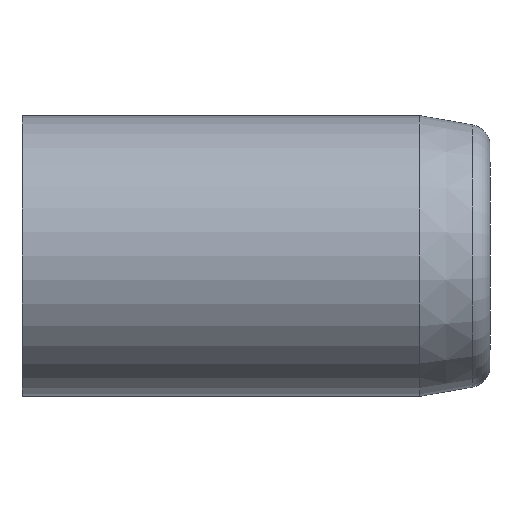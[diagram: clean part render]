
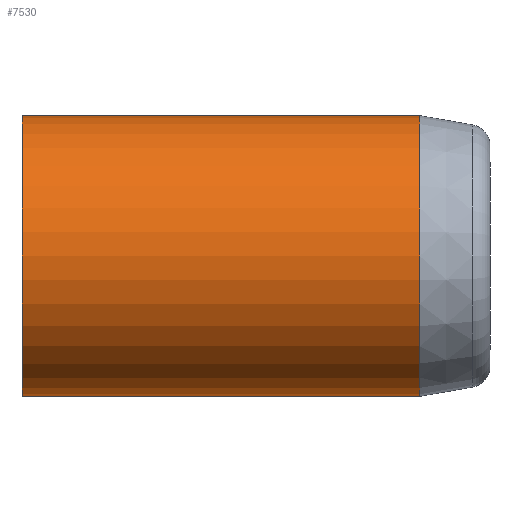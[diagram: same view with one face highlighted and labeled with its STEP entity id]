
A CAD part, left-side view. The second image highlights one B-rep face of the part: STEP entity #7530.
In plain terms, the highlighted cylindrical face has radius 6 mm (diameter 12 mm), a partial arc.
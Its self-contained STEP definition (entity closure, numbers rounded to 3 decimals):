
#357 = VECTOR ( 'NONE', #655, 1000. ) ;
#655 = DIRECTION ( 'NONE',  ( 0., 1., 0. ) ) ;
#732 = VECTOR ( 'NONE', #986, 1000. ) ;
#986 = DIRECTION ( 'NONE',  ( 0., 1., 0. ) ) ;
#1287 = CIRCLE ( 'NONE', #8195, 6. ) ;
#1595 = LINE ( 'NONE', #9121, #357 ) ;
#1617 = DIRECTION ( 'NONE',  ( 0., 0., 1. ) ) ;
#2138 = FACE_OUTER_BOUND ( 'NONE', #5563, .T. ) ;
#2616 = ORIENTED_EDGE ( 'NONE', *, *, #5364, .T. ) ;
#3010 = EDGE_CURVE ( 'NONE', #10447, #9380, #1287, .T. ) ;
#3536 = CARTESIAN_POINT ( 'NONE',  ( 0., -7., 0. ) ) ;
#3649 = ORIENTED_EDGE ( 'NONE', *, *, #7821, .F. ) ;
#3743 = VERTEX_POINT ( 'NONE', #7388 ) ;
#4144 = ORIENTED_EDGE ( 'NONE', *, *, #6719, .T. ) ;
#4507 = DIRECTION ( 'NONE',  ( 0., -1., 0. ) ) ;
#4640 = DIRECTION ( 'NONE',  ( 0., 1., 0. ) ) ;
#5364 = EDGE_CURVE ( 'NONE', #9380, #3743, #1595, .T. ) ;
#5563 = EDGE_LOOP ( 'NONE', ( #3649, #9953, #2616, #4144 ) ) ;
#5623 = CARTESIAN_POINT ( 'NONE',  ( 0., -15., -6. ) ) ;
#5886 = CIRCLE ( 'NONE', #7083, 6. ) ;
#5900 = CYLINDRICAL_SURFACE ( 'NONE', #9617, 6. ) ;
#6089 = CARTESIAN_POINT ( 'NONE',  ( 0., -15., 0. ) ) ;
#6297 = CARTESIAN_POINT ( 'NONE',  ( 0., 10., 0. ) ) ;
#6719 = EDGE_CURVE ( 'NONE', #3743, #9631, #5886, .T. ) ;
#6882 = CARTESIAN_POINT ( 'NONE',  ( 0., -7., 6. ) ) ;
#7083 = AXIS2_PLACEMENT_3D ( 'NONE', #6297, #4507, #7348 ) ;
#7348 = DIRECTION ( 'NONE',  ( 0., 0., 1. ) ) ;
#7388 = CARTESIAN_POINT ( 'NONE',  ( 0., 10., 6. ) ) ;
#7530 = ADVANCED_FACE ( 'NONE', ( #2138 ), #5900, .T. ) ;
#7821 = EDGE_CURVE ( 'NONE', #10447, #9631, #9457, .T. ) ;
#8195 = AXIS2_PLACEMENT_3D ( 'NONE', #3536, #4640, #9201 ) ;
#9121 = CARTESIAN_POINT ( 'NONE',  ( 0., -15., 6. ) ) ;
#9201 = DIRECTION ( 'NONE',  ( 0., 0., -1. ) ) ;
#9264 = DIRECTION ( 'NONE',  ( 0., 1., 0. ) ) ;
#9380 = VERTEX_POINT ( 'NONE', #6882 ) ;
#9389 = CARTESIAN_POINT ( 'NONE',  ( 0., 10., -6. ) ) ;
#9457 = LINE ( 'NONE', #5623, #732 ) ;
#9617 = AXIS2_PLACEMENT_3D ( 'NONE', #6089, #9264, #1617 ) ;
#9631 = VERTEX_POINT ( 'NONE', #9389 ) ;
#9953 = ORIENTED_EDGE ( 'NONE', *, *, #3010, .T. ) ;
#10447 = VERTEX_POINT ( 'NONE', #11665 ) ;
#11665 = CARTESIAN_POINT ( 'NONE',  ( 0., -7., -6. ) ) ;
